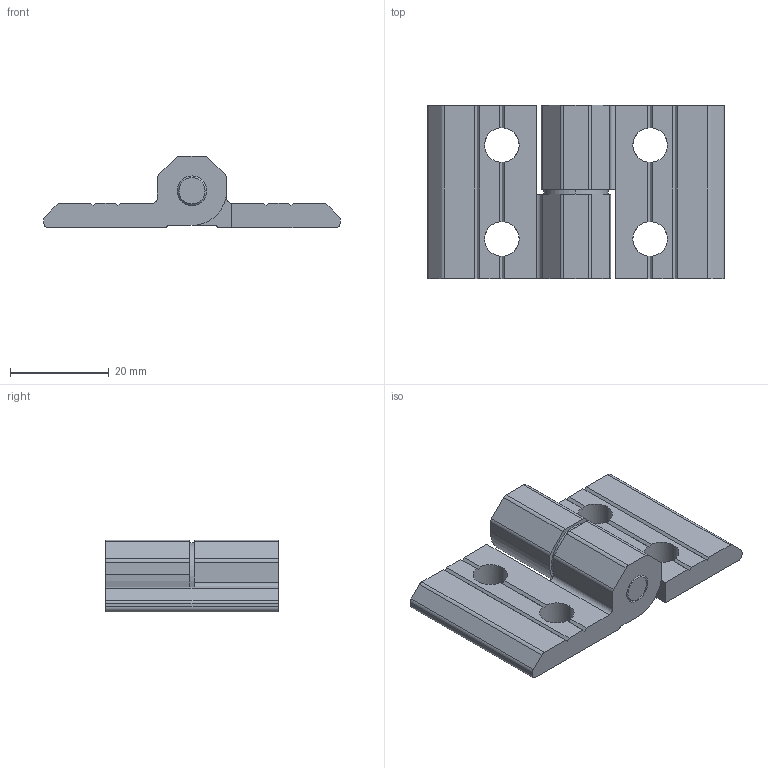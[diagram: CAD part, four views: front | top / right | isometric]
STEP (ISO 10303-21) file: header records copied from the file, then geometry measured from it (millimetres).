
FILE_DESCRIPTION (( 'STEP AP214' ), '1' );
FILE_NAME ('J3HL.step', '2017-05-24T07:45:37', ( 'admin' ), ( '' ), 'SwSTEP 2.0', 'SolidWorks 2014', '' );
FILE_SCHEMA (( 'AUTOMOTIVE_DESIGN' ));
Length unit declared in the file: millimetre
Products named in the file (5): J3HL-4; J3Hl-3; J3HL-2; J3HL-1; J3HL
Assembly tree (4 placements, depth 2):
  J3HL
    J3HL-1
    J3HL-2
    J3Hl-3
    J3HL-4
Bounding box: 60 x 35 x 14.5 mm (x, y, z)
Volume: 12714.5 mm3; surface area: 7833.5 mm2
Topology: 4 solids, 4 shells, 150 faces, 434 edges, 288 vertices
Faces by surface type: plane 106, cylinder 38, cone 6
Entity records: 5362 total; most frequent: CARTESIAN_POINT 1257, ORIENTED_EDGE 868, DIRECTION 786, EDGE_CURVE 434, VERTEX_POINT 288, AXIS2_PLACEMENT_3D 285, VECTOR 216, LINE 216
